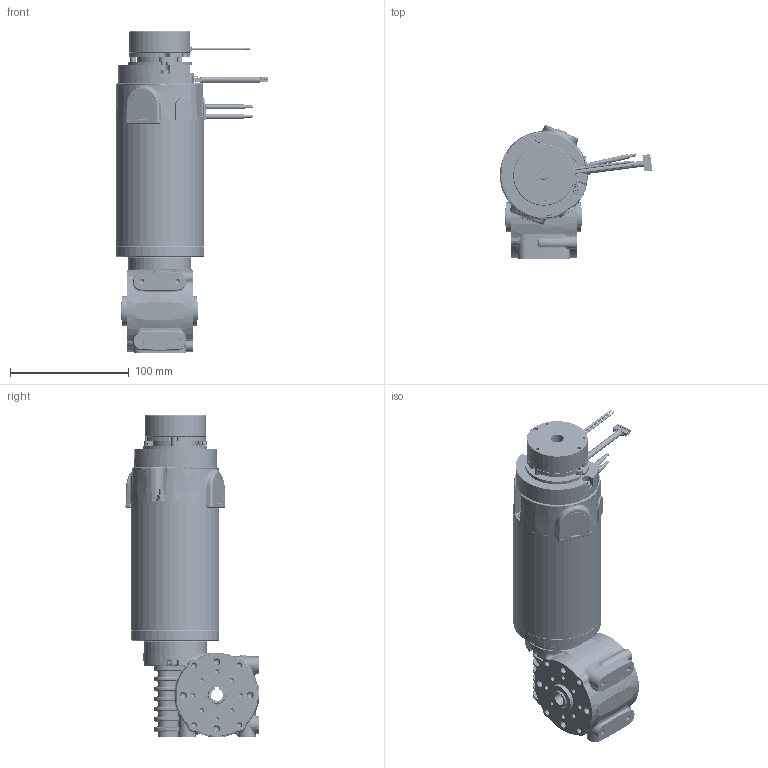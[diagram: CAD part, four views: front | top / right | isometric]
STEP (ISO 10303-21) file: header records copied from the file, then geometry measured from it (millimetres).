
FILE_DESCRIPTION (( 'STEP AP214' ), '1' );
FILE_NAME ('BRx70-60-GB80 - Incr Encoder - Brake.STEP', '2025-09-10T14:52:40', ( '' ), ( '' ), 'SwSTEP 2.0', 'SolidWorks 2023', '' );
FILE_SCHEMA (( 'AUTOMOTIVE_DESIGN' ));
Length unit declared in the file: millimetre
Products named in the file (1): BRx70-60-GB80 - Incr Encoder - Brake
Bounding box: 128.3 x 111.85 x 270.24 mm (x, y, z)
Surface area: 253245 mm2 (no closed solid volume)
Topology: 0 solids, 68 shells, 7884 faces, 20745 edges, 13089 vertices
Faces by surface type: cylinder 3289, plane 2450, cone 834, bspline 752, torus 489, sphere 70
Entity records: 387420 total; most frequent: CARTESIAN_POINT 118717, ORIENTED_EDGE 41146, DIRECTION 34061, EDGE_CURVE 20575, AXIS2_PLACEMENT_3D 13860, VERTEX_POINT 13089, EDGE_LOOP 8448, UNCERTAINTY_MEASURE_WITH_UNIT 7952
